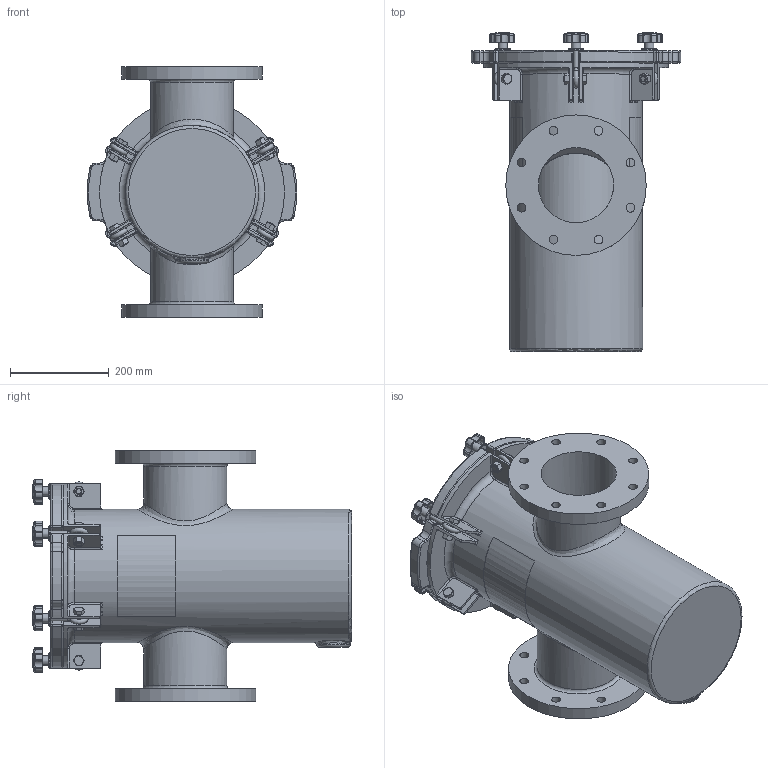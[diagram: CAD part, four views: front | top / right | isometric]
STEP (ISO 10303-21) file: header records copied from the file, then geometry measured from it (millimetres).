
FILE_DESCRIPTION(/* description */ ('STRAINER BODY'),/* implementation_level */ '2;1');
FILE_NAME(/* name */ '\\chntshnas1\IP_PUMPS\NeptuneBenson\Project Execution\WIP\Ready for delivery - Do not Disturb -Updated with metric Flange\Workspace\FG Straight Strainer\150NBFG06X06-MM.stp',/* time_stamp */ '2016-10-18T19:44:12+05:00',/* author */ ('20076253'),/* organization */ (''),/* preprocessor_version */ 'ST-DEVELOPER v16.1',/* originating_system */ 'Autodesk Inventor 2016',/* authorisation */ '');
FILE_SCHEMA (('AUTOMOTIVE_DESIGN { 1 0 10303 214 3 1 1 }'));
Length unit declared in the file: inch
Products named in the file (18): NBFGBODY06X06MM; 150NBCVR48R1; 150NBGSK48R1; Perforated Basket 10in; Bride (Ring) 10in; Baffle 10in; Handle 10in; Bottom Strainer 10in; NBBSK08T316; Nut- 1_2  UNC; Bolt-1_2 x 1 1_2  UNC; EyeBolt; Washer; Knob M10; Securing Assembly For FG without Brace; Label for 10.625 inch (Right); Label for 10.625 inch (Left); Guardian FG H&L Strainer (Metric)
Assembly tree (22 placements, depth 3):
  Guardian FG H&L Strainer (Metric)
    NBFGBODY06X06MM
    150NBCVR48R1
    150NBGSK48R1
    NBBSK08T316
      Perforated Basket 10in
      Bride (Ring) 10in
      Baffle 10in
      Handle 10in
      Bottom Strainer 10in
    Securing Assembly For FG without Brace  x6
      Nut- 1_2  UNC
      Bolt-1_2 x 1 1_2  UNC
      EyeBolt
      Washer
      Knob M10
    Label for 10.625 inch (Right)
    Label for 10.625 inch (Left)
Bounding box: 424.18 x 646.2 x 508 mm (x, y, z)
Volume: 11601834.8 mm3; surface area: 2769949.5 mm2
Topology: 40 solids, 40 shells, 1275 faces, 2920 edges, 1725 vertices
Faces by surface type: cylinder 466, plane 330, cone 138, torus 124, bspline 115, sphere 102
Full cylindrical faces by diameter (mm): 3.175 x10, 6.35 x1, 8.382 x6, 9.525 x12, 10.592 x6, 12.7 x6, 15.875 x12, 17.78 x16, 19 x12, 19.05 x6, 22.809 x1, 31.75 x6, 152.4 x2, 168.275 x2, 187.325 x2, 190.5 x1, 193.04 x1, 254 x2, 266.7 x1, 269.875 x1, 276.225 x1, 284.48 x2, 311.15 x1, 317.5 x1
Entity records: 25979 total; most frequent: CARTESIAN_POINT 9935, DIRECTION 3312, ORIENTED_EDGE 3016, EDGE_CURVE 1508, AXIS2_PLACEMENT_3D 1400, VERTEX_POINT 954, EDGE_LOOP 860, CIRCLE 708
